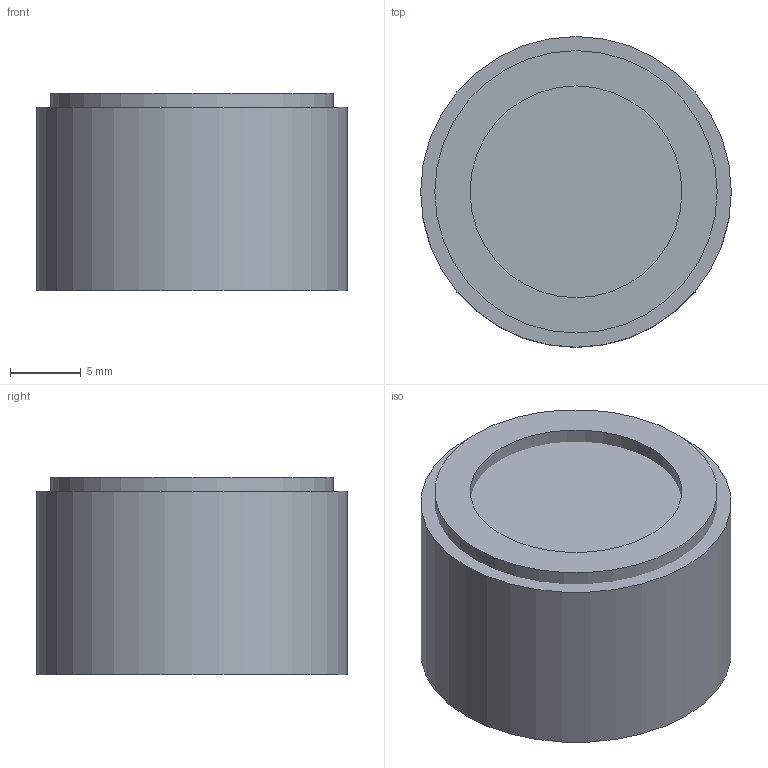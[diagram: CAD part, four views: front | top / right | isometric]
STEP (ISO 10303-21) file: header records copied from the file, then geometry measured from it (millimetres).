
FILE_DESCRIPTION(('FreeCAD Model'),'2;1');
FILE_NAME('Open CASCADE Shape Model','2026-10-05T09:23:00',('Author'),( ''),'Open CASCADE STEP processor 7.8','FreeCAD','Unknown');
FILE_SCHEMA(('AUTOMOTIVE_DESIGN { 1 0 10303 214 1 1 1 1 }'));
Length unit declared in the file: millimetre
Products named in the file (3): Export_thumb_opposition; ThumbOppositionHub; ThumbOppositionRing
Assembly tree (2 placements, depth 2):
  Export_thumb_opposition
    ThumbOppositionHub
    ThumbOppositionRing
Bounding box: 22 x 22 x 14 mm (x, y, z)
Volume: 5147.9 mm3; surface area: 2098.6 mm2
Topology: 2 solids, 2 shells, 7 faces, 9 edges, 6 vertices
Faces by surface type: plane 4, cylinder 3
Full cylindrical faces by diameter (mm): 15 x1, 20 x1, 22 x1
Entity records: 197 total; most frequent: DIRECTION 35, CARTESIAN_POINT 25, ORIENTED_EDGE 18, AXIS2_PLACEMENT_3D 16, FACE_BOUND 9, EDGE_LOOP 9, EDGE_CURVE 9, ADVANCED_FACE 7
